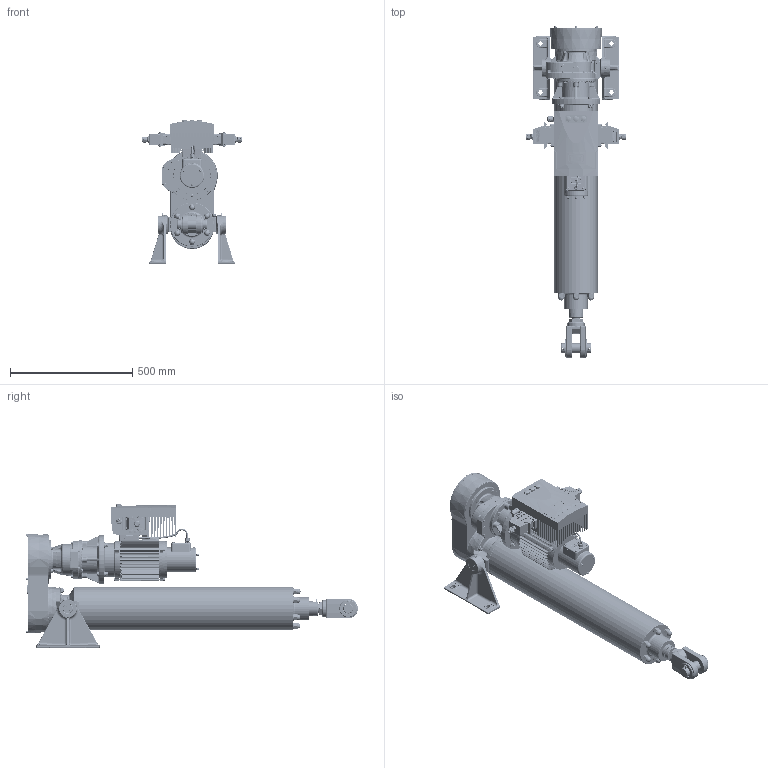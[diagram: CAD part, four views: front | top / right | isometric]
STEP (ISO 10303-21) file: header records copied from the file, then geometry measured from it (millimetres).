
FILE_DESCRIPTION( ( '153-599-4' ), '1' );
FILE_NAME( 'C:/daten/bearbeitung katalogbilder/RBs rendern/austausch pomplun/mit identnr/T1N7-RM-0600-160-248-9.stp', 'Unknown', ( 'Christoph Hahmann' ), ( 'RACO-ELEKTRO-MASCHINEN GmbH' ), 'PSStep 17.0.49', 'Solid Edge ST 7', ' ' );
FILE_SCHEMA( ( 'AUTOMOTIVE_DESIGN { 1 0 10303 214 1 1 1 1 }' ) );
Length unit declared in the file: millimetre
Products named in the file (15): Assem1; 03.01-07 kpl; 02.14-07-0600; 01.15-07-0600; 02.01-07 kpl; 01.74-07; 01.01-07-gabelkkopf 133-277-52; Gehäuse A2- CAN; 157-713-1-3; BG2-155-450-6-kpl; 108-323-6 kpl; Kabel zum Motor 90L4; 12-00-07; 03.65-07-2Füße; 90L4-141-907-2 mit Adapter
Assembly tree (14 placements, depth 2):
  Assem1
    03.01-07 kpl
    02.14-07-0600
    01.15-07-0600
    02.01-07 kpl
    01.74-07
    01.01-07-gabelkkopf 133-277-52
    Gehäuse A2- CAN
    157-713-1-3
    BG2-155-450-6-kpl
    108-323-6 kpl
    Kabel zum Motor 90L4
    12-00-07
    03.65-07-2Füße
    90L4-141-907-2 mit Adapter
Bounding box: 412.49 x 1355.6 x 586.55 mm (x, y, z)
Surface area: 3374579.9 mm2 (no closed solid volume)
Topology: 0 solids, 12156 shells, 12172 faces, 59280 edges, 57507 vertices
Faces by surface type: plane 5519, cylinder 2940, bspline 1406, cone 1146, torus 694, sphere 412, extrusion 49, revolution 6
Full cylindrical faces by diameter (mm): 1.6 x2, 2 x1, 2.6 x1, 3 x31, 3.141 x8, 3.242 x24, 4 x27, 4.134 x3, 4.188 x6, 4.4 x8, 4.5 x12, 4.773 x13, 4.917 x7, 5 x39, 5.3 x3, 5.5 x5, 5.7 x7, 6 x34, 6.35 x4, 6.47 x8, 6.6 x7, 6.647 x15, 6.8 x8, 7 x20, 7.5 x3, 7.6 x8, 8 x22, 8.15 x1, 8.2 x1, 8.376 x28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
Entity records: 965758 total; most frequent: CARTESIAN_POINT 442421, DIRECTION 88481, VERTEX_POINT 56823, ORIENTED_EDGE 56730, EDGE_CURVE 56730, AXIS2_PLACEMENT_3D 30861, VECTOR 26753, LINE 26704
